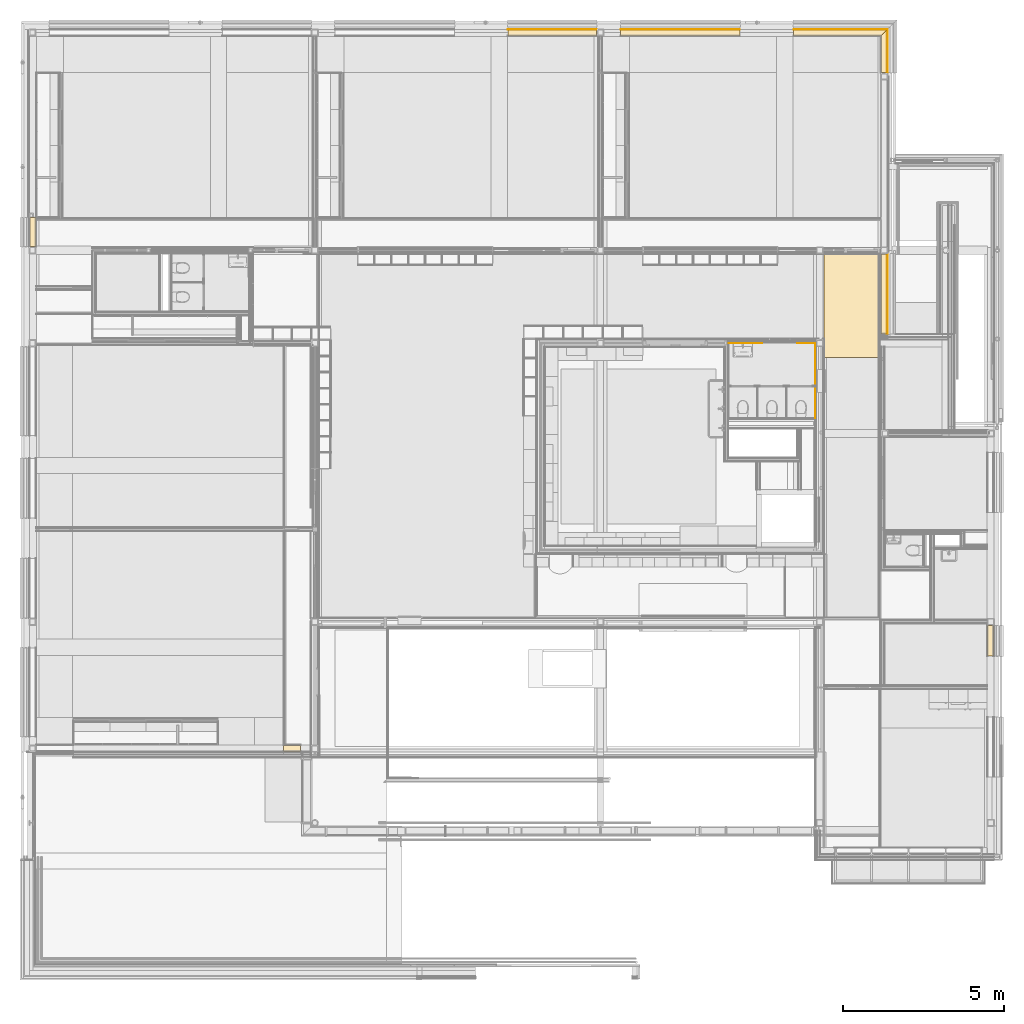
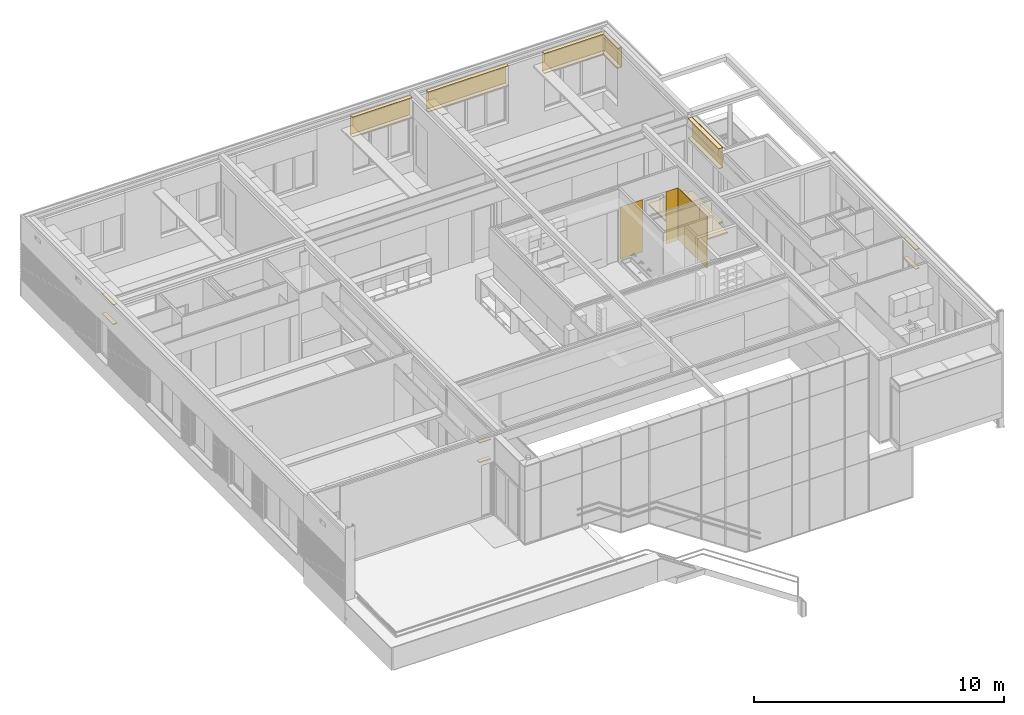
# One storey, part 107 of 137: 25 coverings, 12 elements without a shape of their own.
"""IFC2X3 building model written with IfcOpenShell, lengths in millimetres."""

from ifc_helpers import new_model, entity, si_unit, converted_unit, derived_unit, money_unit, direction, frame, origin_with_axes, place, context, subcontext, project, spatial, faceted_brep, material, type_object, element, aggregate, save


model = new_model("IFC2X3")

# Units and contexts
model_context = context("Model", 3, precision=0.01, world=origin_with_axes(), true_north=direction((0.0, 1.0)))
body_context = subcontext(model_context, "Body", "Model", "MODEL_VIEW")
ifc_project = project(units=[si_unit("LENGTHUNIT", "METRE", prefix="MILLI"), si_unit("AREAUNIT", "SQUARE_METRE"), si_unit("VOLUMEUNIT", "CUBIC_METRE"), converted_unit("PLANEANGLEUNIT", "DEGREE", entity("IfcPlaneAngleMeasure", 0.0174532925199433), si_unit("PLANEANGLEUNIT", "RADIAN"), dimensions=[0, 0, 0, 0, 0, 0, 0]), money_unit("EUR"), converted_unit("TIMEUNIT", "Year", entity("IfcTimeMeasure", 31556926.0), si_unit("TIMEUNIT", "SECOND"), dimensions=[0, 0, 1, 0, 0, 0, 0]), si_unit("MASSUNIT", "GRAM", prefix="KILO"), si_unit("THERMODYNAMICTEMPERATUREUNIT", "DEGREE_CELSIUS"), si_unit("LUMINOUSINTENSITYUNIT", "LUMEN"), si_unit("ENERGYUNIT", "JOULE", prefix="MEGA"), derived_unit("THERMALCONDUCTANCEUNIT", [(si_unit("POWERUNIT", "WATT"), 1), (si_unit("LENGTHUNIT", "METRE"), -1), (si_unit("THERMODYNAMICTEMPERATUREUNIT", "KELVIN"), -1)]), derived_unit("SPECIFICHEATCAPACITYUNIT", [(si_unit("ENERGYUNIT", "JOULE"), 1), (si_unit("MASSUNIT", "GRAM", prefix="KILO"), -1), (si_unit("THERMODYNAMICTEMPERATUREUNIT", "KELVIN"), -1)]), derived_unit("MASSDENSITYUNIT", [(si_unit("MASSUNIT", "GRAM", prefix="KILO"), 1), (si_unit("VOLUMEUNIT", "CUBIC_METRE"), -1)])], contexts=[model_context])

# Site, building, storey
site_placement = place(None, origin_with_axes())
site = spatial("IfcSite", under=ifc_project, at=site_placement, Name="Site", CompositionType="ELEMENT")
building_placement = place(site_placement, origin_with_axes())
building = spatial("IfcBuilding", under=site, at=building_placement, Name="Naam gebouw", CompositionType="ELEMENT")
storey_placement = place(building_placement, frame((0.0, 0.0, 3960.0), z_axis=(0.0, 0.0, 1.0), x_axis=(1.0, 0.0, 0.0)))
storey = spatial("IfcBuildingStorey", under=building, at=storey_placement, Name="1e verdieping", CompositionType="ELEMENT", Elevation=3960.0)

# Slab, covering
slab_type = type_object("IfcSlabType", Name="43 Zwevende dekvloer 100", PredefinedType="NOTDEFINED")
slab_placement = place(storey_placement, frame((24634.99903999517, 19003.49778166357, 0.0), z_axis=(0.0, 0.0, 1.0), x_axis=(1.0, 0.0, 0.0)))
slab = element("IfcSlab", 1, at=slab_placement, inside=storey, type_object=slab_type, Name="_Vloer-x", PredefinedType="NOTDEFINED")
ifc_material_1 = material(Name="Cement - dekvloer")
covering_1_placement = place(slab_placement, origin_with_axes())
covering_1 = element("IfcCovering", 2, at=covering_1_placement, material=ifc_material_1, Name="Cement - dekvloer", PredefinedType="FLOORING", context=body_context, shape_type="Brep", body=[
    faceted_brep([(1751.000935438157, 0.0, -69.99999999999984), (1751.000935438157, 0.0, 0.0), (0.0, 0.0, 0.0), (0.0, 0.0, -69.99999999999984), (1751.000935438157, 732.5026352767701, -69.99999999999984), (1751.000935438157, 732.5026352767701, 0.0), (1965.000982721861, 732.5026352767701, 0.0), (1965.000982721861, 3207.502591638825, 0.0), (1751.000985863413, 3207.502591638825, 0.0), (1751.000985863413, 3383.978432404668, 0.0), (621.0009473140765, 3383.978432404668, 0.0), (621.0009473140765, 3313.978444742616, 0.0), (0.0, 3313.978444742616, 0.0), (0.0, 3313.978444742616, -69.99999999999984), (621.0009473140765, 3313.978444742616, -69.99999999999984), (621.0009473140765, 3383.978432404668, -69.99999999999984), (1751.000985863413, 3383.978432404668, -69.99999999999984), (1751.000985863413, 3207.502591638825, -69.99999999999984), (1965.000982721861, 3207.502591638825, -69.99999999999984), (1965.000982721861, 732.5026352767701, -69.99999999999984)], [[[0, 1, 2, 3]], [[4, 5, 1, 0]], [[2, 1, 5, 6, 7, 8, 9, 10, 11, 12]], [[3, 2, 12, 13]], [[3, 13, 14, 15, 16, 17, 18, 19, 4, 0]], [[19, 6, 5, 4]], [[18, 7, 6, 19]], [[17, 8, 7, 18]], [[16, 9, 8, 17]], [[15, 10, 9, 16]], [[14, 11, 10, 15]], [[13, 12, 11, 14]]]),
])
aggregate(slab, [covering_1])

# Proxy, covering
building_element_proxy_type = type_object("IfcBuildingElementProxyType", Name="42 Tegelwerk 2600+ 12 x 2600", PredefinedType="NOTDEFINED")
proxy_1_placement = place(storey_placement, frame((24344.99903999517, 19439.9998112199, 0.0), z_axis=(0.0, 0.0, 1.0), x_axis=(-1.0, 0.0, 0.0)))
proxy_1 = element("IfcBuildingElementProxy", 3, at=proxy_1_placement, inside=storey, type_object=building_element_proxy_type, Name="_Wand-x")
ifc_material_2 = material(Name="Tegels - Wand")
covering_2_placement = place(proxy_1_placement, origin_with_axes())
covering_2 = element("IfcCovering", 4, at=covering_2_placement, material=ifc_material_2, Name="Tegels - Wand", PredefinedType="NOTDEFINED", context=body_context, shape_type="Brep", body=[
    faceted_brep([(-7.999999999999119, -7.999999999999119, 2600.0), (-7.999999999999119, -12.99999999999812, 2600.0), (545.0078311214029, -12.99999999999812, 2600.0), (545.0078311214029, -7.999999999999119, 2600.0), (-7.999999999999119, -13.00000000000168, 49.99999999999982), (-7.999999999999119, -7.999999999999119, 49.99999999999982), (545.0078311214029, -13.00000000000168, 49.99999999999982), (545.0078311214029, -7.999999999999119, 49.99999999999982)], [[[0, 1, 2, 3]], [[4, 1, 0, 5]], [[1, 4, 6, 2]], [[3, 2, 6, 7]], [[5, 0, 3, 7]], [[4, 5, 7, 6]]]),
])
aggregate(proxy_1, [covering_2])

proxy_2_placement = place(storey_placement, frame((22719.99120887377, 19439.9998112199, 0.0), z_axis=(0.0, 0.0, 1.0), x_axis=(-1.0, 0.0, 0.0)))
proxy_2 = element("IfcBuildingElementProxy", 5, at=proxy_2_placement, inside=storey, type_object=building_element_proxy_type, Name="_Wand-x")
covering_3_placement = place(proxy_2_placement, origin_with_axes())
covering_3 = element("IfcCovering", 6, at=covering_3_placement, material=ifc_material_2, Name="Tegels - Wand", PredefinedType="NOTDEFINED", context=body_context, shape_type="Brep", body=[
    faceted_brep([(1047.992173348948, -13.00000000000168, 49.99999999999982), (1047.992173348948, -13.00000000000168, 2600.0), (0.0, -12.99999999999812, 2600.0), (0.0, -13.00000000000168, 49.99999999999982), (1047.992173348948, -7.999999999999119, 2600.0), (1047.992173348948, -7.999999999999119, 49.99999999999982), (0.0, -7.999999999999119, 2600.0), (0.0, -7.999999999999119, 49.99999999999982)], [[[0, 1, 2, 3]], [[4, 1, 0, 5]], [[1, 4, 6, 2]], [[6, 7, 3, 2]], [[5, 0, 3, 7]], [[4, 5, 7, 6]]]),
])
aggregate(proxy_2, [covering_3])

proxy_3_placement = place(storey_placement, frame((24344.99903999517, 17134.99778166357, 0.0), z_axis=(0.0, 0.0, 1.0), x_axis=(0.0, 1.0, 0.0)))
proxy_3 = element("IfcBuildingElementProxy", 7, at=proxy_3_placement, inside=storey, type_object=building_element_proxy_type, Name="_Wand-x")
covering_4_placement = place(proxy_3_placement, origin_with_axes())
covering_4 = element("IfcCovering", 8, at=covering_4_placement, material=ifc_material_2, Name="Tegels - Wand", PredefinedType="NOTDEFINED", context=body_context, shape_type="Brep", body=[
    faceted_brep([(2318.002034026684, -13.00000000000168, 49.99999999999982), (2318.002034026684, -12.99999999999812, 2600.0), (-7.999999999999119, -12.99999999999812, 2600.0), (-7.999999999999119, -13.00000000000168, 49.99999999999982), (2318.002034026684, -7.999999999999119, 2600.0), (2318.002034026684, -7.999999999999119, 49.99999999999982), (-7.999999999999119, -7.999999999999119, 2600.0), (-7.999999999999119, -7.999999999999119, 49.99999999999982)], [[[0, 1, 2, 3]], [[4, 1, 0, 5]], [[1, 4, 6, 2]], [[3, 2, 6, 7]], [[5, 0, 3, 7]], [[4, 5, 7, 6]]]),
])
aggregate(proxy_3, [covering_4])

# Beam, coverings
beam_type = type_object("IfcBeamType", Name="31 HSB boven kozijnen 214 x 1000", PredefinedType="BEAM")
beam_1_placement = place(storey_placement, frame((14834.99942456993, 28961.0, 2600.000000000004), z_axis=(0.0, 0.0, 1.0), x_axis=(0.0, -1.0, 0.0)))
beam_1 = element("IfcBeam", 9, at=beam_1_placement, inside=storey, type_object=beam_type, Name="28_Balk-x", ObjectType="BEAM")
ifc_material_3 = material(Name="Hout - Vloer")
covering_5_placement = place(beam_1_placement, origin_with_axes())
covering_5 = element("IfcCovering", 10, at=covering_5_placement, material=ifc_material_3, Name="Hout - Vloer", PredefinedType="NOTDEFINED", context=body_context, shape_type="Brep", body=[
    faceted_brep([(-196.000001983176, 2749.999999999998, 999.9999999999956), (-196.000001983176, 2749.999999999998, 961.9999910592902), (-196.000001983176, 0.0, 961.9999910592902), (-196.000001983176, 0.0, 999.9999999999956), (-11.99999006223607, 2749.999999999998, 999.9999999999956), (-11.99999006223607, 2749.999999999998, 962.0000059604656), (-11.99999006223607, 0.0, 962.0000059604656), (-11.99999006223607, 0.0, 999.9999999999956)], [[[0, 1, 2, 3]], [[0, 4, 5, 1]], [[1, 5, 6, 2]], [[3, 2, 6, 7]], [[4, 0, 3, 7]], [[5, 4, 7, 6]]]),
])
covering_6_placement = place(beam_1_placement, origin_with_axes())
covering_6 = element("IfcCovering", 11, at=covering_6_placement, material=ifc_material_3, Name="Hout - Vloer", PredefinedType="NOTDEFINED", context=body_context, shape_type="Brep", body=[
    faceted_brep([(-196.0000083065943, 2749.999999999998, 49.99999999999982), (-196.0000083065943, 2749.999999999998, 12.00000596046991), (-196.0000083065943, 0.0, 12.00000596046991), (-196.0000083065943, 0.0, 49.99999999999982), (-11.9999963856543, 2749.999999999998, 49.99999999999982), (-11.9999963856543, 2749.999999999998, 12.00000596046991), (-11.9999963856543, 0.0, 12.00000596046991), (-11.9999963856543, 0.0, 49.99999999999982)], [[[0, 1, 2, 3]], [[0, 4, 5, 1]], [[1, 5, 6, 2]], [[3, 2, 6, 7]], [[4, 0, 3, 7]], [[5, 4, 7, 6]]]),
])
ifc_material_4 = material(Name="Hout - Multiplex")
covering_7_placement = place(beam_1_placement, origin_with_axes())
covering_7 = element("IfcCovering", 12, at=covering_7_placement, material=ifc_material_4, Name="Hout - Multiplex", PredefinedType="NOTDEFINED", context=body_context, shape_type="Brep", body=[
    faceted_brep([(-214.0000025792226, 2749.999999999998, 999.9999999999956), (-214.0000025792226, 2749.999999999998, 11.99999999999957), (-214.0000025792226, 0.0, 11.99999999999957), (-214.0000025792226, 0.0, 999.9999999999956), (-196.000001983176, 2749.999999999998, 999.9999999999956), (-196.000001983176, 2749.999999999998, 11.99999999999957), (-196.000001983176, 0.0, 11.99999999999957), (-196.000001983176, 0.0, 999.9999999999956)], [[[0, 1, 2, 3]], [[0, 4, 5, 1]], [[1, 5, 6, 2]], [[3, 2, 6, 7]], [[4, 0, 3, 7]], [[5, 4, 7, 6]]]),
])
aggregate(beam_1, [covering_5, covering_6, covering_7])

beam_2_placement = place(storey_placement, frame((18324.99942456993, 28961.0, 2600.000000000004), z_axis=(0.0, 0.0, 1.0), x_axis=(0.0, -1.0, 0.0)))
beam_2 = element("IfcBeam", 13, at=beam_2_placement, inside=storey, type_object=beam_type, Name="28_Balk-x", ObjectType="BEAM")
covering_8_placement = place(beam_2_placement, origin_with_axes())
covering_8 = element("IfcCovering", 14, at=covering_8_placement, material=ifc_material_3, Name="Hout - Vloer", PredefinedType="NOTDEFINED", context=body_context, shape_type="Brep", body=[
    faceted_brep([(-196.000001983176, 3700.000000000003, 999.9999999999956), (-196.000001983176, 3700.000000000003, 961.9999910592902), (-196.000001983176, 0.0, 961.9999910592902), (-196.000001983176, 0.0, 999.9999999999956), (-11.99999006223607, 3700.000000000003, 999.9999999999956), (-11.99999006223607, 3700.000000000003, 962.0000059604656), (-11.99999006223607, 0.0, 962.0000059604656), (-11.99999006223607, 0.0, 999.9999999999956)], [[[0, 1, 2, 3]], [[0, 4, 5, 1]], [[1, 5, 6, 2]], [[3, 2, 6, 7]], [[4, 0, 3, 7]], [[5, 4, 7, 6]]]),
])
covering_9_placement = place(beam_2_placement, origin_with_axes())
covering_9 = element("IfcCovering", 15, at=covering_9_placement, material=ifc_material_3, Name="Hout - Vloer", PredefinedType="NOTDEFINED", context=body_context, shape_type="Brep", body=[
    faceted_brep([(-196.0000083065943, 3700.000000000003, 49.99999999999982), (-196.0000083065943, 3700.000000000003, 12.00000596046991), (-196.0000083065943, 0.0, 12.00000596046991), (-196.0000083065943, 0.0, 49.99999999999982), (-11.9999963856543, 3700.000000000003, 49.99999999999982), (-11.9999963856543, 3700.000000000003, 12.00000596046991), (-11.9999963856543, 0.0, 12.00000596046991), (-11.9999963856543, 0.0, 49.99999999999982)], [[[0, 1, 2, 3]], [[0, 4, 5, 1]], [[1, 5, 6, 2]], [[3, 2, 6, 7]], [[4, 0, 3, 7]], [[5, 4, 7, 6]]]),
])
covering_10_placement = place(beam_2_placement, origin_with_axes())
covering_10 = element("IfcCovering", 16, at=covering_10_placement, material=ifc_material_4, Name="Hout - Multiplex", PredefinedType="NOTDEFINED", context=body_context, shape_type="Brep", body=[
    faceted_brep([(-214.0000025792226, 3700.000000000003, 999.9999999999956), (-214.0000025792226, 3700.000000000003, 11.99999999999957), (-214.0000025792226, 0.0, 11.99999999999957), (-214.0000025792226, 0.0, 999.9999999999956), (-196.000001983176, 3700.000000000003, 999.9999999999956), (-196.000001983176, 3700.000000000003, 11.99999999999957), (-196.000001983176, 0.0, 11.99999999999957), (-196.000001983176, 0.0, 999.9999999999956)], [[[0, 1, 2, 3]], [[0, 4, 5, 1]], [[1, 5, 6, 2]], [[3, 2, 6, 7]], [[4, 0, 3, 7]], [[5, 4, 7, 6]]]),
])
aggregate(beam_2, [covering_8, covering_9, covering_10])

beam_3_placement = place(storey_placement, frame((23684.99942456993, 28961.0, 2600.000000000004), z_axis=(0.0, 0.0, 1.0), x_axis=(0.0, -1.0, 0.0)))
beam_3 = element("IfcBeam", 17, at=beam_3_placement, inside=storey, type_object=beam_type, Name="28_Balk-x", ObjectType="BEAM")
covering_11_placement = place(beam_3_placement, origin_with_axes())
covering_11 = element("IfcCovering", 18, at=covering_11_placement, material=ifc_material_3, Name="Hout - Vloer", PredefinedType="NOTDEFINED", context=body_context, shape_type="Brep", body=[
    faceted_brep([(-196.000001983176, 2897.000577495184, 999.9999999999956), (-196.000001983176, 2897.000577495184, 961.9999910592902), (-196.000001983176, 0.0, 961.9999910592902), (-196.000001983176, 0.0, 999.9999999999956), (-11.99999006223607, 2713.000565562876, 999.9999999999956), (-11.99999006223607, 2713.000565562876, 962.0000059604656), (-11.99999006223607, 0.0, 962.0000059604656), (-11.99999006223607, 0.0, 999.9999999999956)], [[[0, 1, 2, 3]], [[0, 4, 5, 1]], [[1, 5, 6, 2]], [[3, 2, 6, 7]], [[4, 0, 3, 7]], [[5, 4, 7, 6]]]),
])
covering_12_placement = place(beam_3_placement, origin_with_axes())
covering_12 = element("IfcCovering", 19, at=covering_12_placement, material=ifc_material_3, Name="Hout - Vloer", PredefinedType="NOTDEFINED", context=body_context, shape_type="Brep", body=[
    faceted_brep([(-196.0000083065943, 2897.000583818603, 49.99999999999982), (-196.0000083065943, 2897.000583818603, 12.00000596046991), (-196.0000083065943, 0.0, 12.00000596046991), (-196.0000083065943, 0.0, 49.99999999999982), (-11.9999963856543, 2713.000571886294, 49.99999999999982), (-11.9999963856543, 2713.000571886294, 12.00000596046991), (-11.9999963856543, 0.0, 12.00000596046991), (-11.9999963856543, 0.0, 49.99999999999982)], [[[0, 1, 2, 3]], [[0, 4, 5, 1]], [[1, 5, 6, 2]], [[3, 2, 6, 7]], [[4, 0, 3, 7]], [[5, 4, 7, 6]]]),
])
covering_13_placement = place(beam_3_placement, origin_with_axes())
covering_13 = element("IfcCovering", 20, at=covering_13_placement, material=ifc_material_4, Name="Hout - Multiplex", PredefinedType="NOTDEFINED", context=body_context, shape_type="Brep", body=[
    faceted_brep([(-214.0000025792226, 2915.000578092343, 999.9999999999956), (-214.0000025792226, 2915.000578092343, 11.99999999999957), (-214.0000025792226, 0.0, 11.99999999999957), (-214.0000025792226, 0.0, 999.9999999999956), (-196.000001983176, 2897.000577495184, 999.9999999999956), (-196.000001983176, 2897.000577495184, 11.99999999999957), (-196.000001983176, 0.0, 11.99999999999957), (-196.000001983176, 0.0, 999.9999999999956)], [[[0, 1, 2, 3]], [[0, 4, 5, 1]], [[1, 5, 6, 2]], [[3, 2, 6, 7]], [[4, 0, 3, 7]], [[5, 4, 7, 6]]]),
])
aggregate(beam_3, [covering_11, covering_12, covering_13])

beam_4_placement = place(storey_placement, frame((26386.00000006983, 28961.0, 2600.000000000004), z_axis=(0.0, 0.0, 1.0), x_axis=(-1.0, 0.0, 0.0)))
beam_4 = element("IfcBeam", 21, at=beam_4_placement, inside=storey, type_object=beam_type, Name="28_Balk-x", ObjectType="BEAM")
covering_14_placement = place(beam_4_placement, origin_with_axes())
covering_14 = element("IfcCovering", 22, at=covering_14_placement, material=ifc_material_3, Name="Hout - Vloer", PredefinedType="NOTDEFINED", context=body_context, shape_type="Brep", body=[
    faceted_brep([(-196.0000083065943, 1130.000000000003, 49.99999999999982), (-196.0000083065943, 1130.000000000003, 12.00000596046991), (-196.0000083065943, -196.0000083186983, 12.00000596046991), (-196.0000083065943, -196.0000083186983, 49.99999999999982), (-11.9999963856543, 1130.000000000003, 49.99999999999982), (-11.9999963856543, 1130.000000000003, 12.00000596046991), (-11.99999638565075, -11.99999638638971, 12.00000596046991), (-11.99999638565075, -11.99999638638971, 49.99999999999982)], [[[0, 1, 2, 3]], [[0, 4, 5, 1]], [[1, 5, 6, 2]], [[3, 2, 6, 7]], [[4, 0, 3, 7]], [[5, 4, 7, 6]]]),
])
covering_15_placement = place(beam_4_placement, origin_with_axes())
covering_15 = element("IfcCovering", 23, at=covering_15_placement, material=ifc_material_3, Name="Hout - Vloer", PredefinedType="NOTDEFINED", context=body_context, shape_type="Brep", body=[
    faceted_brep([(-196.000001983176, 1130.000000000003, 999.9999999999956), (-196.000001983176, 1130.000000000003, 961.9999910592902), (-196.000001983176, -196.0000019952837, 961.9999910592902), (-196.000001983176, -196.0000019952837, 999.9999999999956), (-11.99999006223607, 1130.000000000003, 999.9999999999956), (-11.99999006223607, 1130.000000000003, 962.0000059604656), (-11.99999006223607, -11.99999006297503, 962.0000059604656), (-11.99999006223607, -11.99999006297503, 999.9999999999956)], [[[0, 1, 2, 3]], [[0, 4, 5, 1]], [[1, 5, 6, 2]], [[3, 2, 6, 7]], [[4, 0, 3, 7]], [[5, 4, 7, 6]]]),
])
covering_16_placement = place(beam_4_placement, origin_with_axes())
covering_16 = element("IfcCovering", 24, at=covering_16_placement, material=ifc_material_4, Name="Hout - Multiplex", PredefinedType="NOTDEFINED", context=body_context, shape_type="Brep", body=[
    faceted_brep([(-214.0000025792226, 1130.000000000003, 999.9999999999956), (-214.0000025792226, 1130.000000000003, 11.99999999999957), (-214.0000025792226, -214.0000025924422, 11.99999999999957), (-214.0000025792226, -214.0000025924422, 999.9999999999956), (-196.000001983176, 1130.000000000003, 999.9999999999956), (-196.000001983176, 1130.000000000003, 11.99999999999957), (-196.000001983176, -196.0000019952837, 11.99999999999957), (-196.000001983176, -196.0000019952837, 999.9999999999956)], [[[0, 1, 2, 3]], [[0, 4, 5, 1]], [[1, 5, 6, 2]], [[3, 2, 6, 7]], [[4, 0, 3, 7]], [[5, 4, 7, 6]]]),
])
aggregate(beam_4, [covering_14, covering_15, covering_16])

beam_5_placement = place(storey_placement, frame((26386.00000214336, 22211.000393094, 2600.000000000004), z_axis=(0.0, 0.0, 1.0), x_axis=(-1.0, 0.0, 0.0)))
beam_5 = element("IfcBeam", 25, at=beam_5_placement, inside=storey, type_object=beam_type, Name="28_Balk-x", ObjectType="BEAM")
covering_17_placement = place(beam_5_placement, origin_with_axes())
covering_17 = element("IfcCovering", 26, at=covering_17_placement, material=ifc_material_3, Name="Hout - Vloer", PredefinedType="NOTDEFINED", context=body_context, shape_type="Brep", body=[
    faceted_brep([(-196.000001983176, 2475.000000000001, 999.9999999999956), (-196.000001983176, 2475.000000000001, 961.9999910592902), (-196.000001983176, 0.0, 961.9999910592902), (-196.000001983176, 0.0, 999.9999999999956), (-11.99999006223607, 2475.000000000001, 999.9999999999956), (-11.99999006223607, 2475.000000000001, 962.0000059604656), (-11.99999006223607, 0.0, 962.0000059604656), (-11.99999006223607, 0.0, 999.9999999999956)], [[[0, 1, 2, 3]], [[0, 4, 5, 1]], [[1, 5, 6, 2]], [[3, 2, 6, 7]], [[4, 0, 3, 7]], [[5, 4, 7, 6]]]),
])
covering_18_placement = place(beam_5_placement, origin_with_axes())
covering_18 = element("IfcCovering", 27, at=covering_18_placement, material=ifc_material_3, Name="Hout - Vloer", PredefinedType="NOTDEFINED", context=body_context, shape_type="Brep", body=[
    faceted_brep([(-196.0000083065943, 2475.000000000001, 49.99999999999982), (-196.0000083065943, 2475.000000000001, 12.00000596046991), (-196.0000083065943, 0.0, 12.00000596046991), (-196.0000083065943, 0.0, 49.99999999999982), (-11.9999963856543, 2475.000000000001, 49.99999999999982), (-11.9999963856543, 2475.000000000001, 12.00000596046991), (-11.9999963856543, 0.0, 12.00000596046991), (-11.9999963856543, 0.0, 49.99999999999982)], [[[0, 1, 2, 3]], [[0, 4, 5, 1]], [[1, 5, 6, 2]], [[3, 2, 6, 7]], [[4, 0, 3, 7]], [[5, 4, 7, 6]]]),
])
covering_19_placement = place(beam_5_placement, origin_with_axes())
covering_19 = element("IfcCovering", 28, at=covering_19_placement, material=ifc_material_4, Name="Hout - Multiplex", PredefinedType="NOTDEFINED", context=body_context, shape_type="Brep", body=[
    faceted_brep([(-214.0000025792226, 2475.000000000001, 999.9999999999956), (-214.0000025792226, 2475.000000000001, 11.99999999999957), (-214.0000025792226, 0.0, 11.99999999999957), (-214.0000025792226, 0.0, 999.9999999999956), (-196.000001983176, 2475.000000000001, 999.9999999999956), (-196.000001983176, 2475.000000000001, 11.99999999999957), (-196.000001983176, 0.0, 11.99999999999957), (-196.000001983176, 0.0, 999.9999999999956)], [[[0, 1, 2, 3]], [[0, 4, 5, 1]], [[1, 5, 6, 2]], [[3, 2, 6, 7]], [[4, 0, 3, 7]], [[5, 4, 7, 6]]]),
])
aggregate(beam_5, [covering_17, covering_18, covering_19])

beam_6_placement = place(storey_placement, frame((29685.99999999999, 10695.00011055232, 2600.000000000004), z_axis=(0.0, 0.0, 1.0), x_axis=(-1.0, 0.0, 0.0)))
beam_6 = element("IfcBeam", 29, at=beam_6_placement, inside=storey, type_object=beam_type, Name="28_Balk-x", ObjectType="BEAM")
covering_20_placement = place(beam_6_placement, origin_with_axes())
covering_20 = element("IfcCovering", 30, at=covering_20_placement, material=ifc_material_3, Name="Hout - Vloer", PredefinedType="NOTDEFINED", context=body_context, shape_type="Brep", body=[
    faceted_brep([(-196.000001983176, 950.000000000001, 999.9999999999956), (-196.000001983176, 950.000000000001, 961.9999910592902), (-196.000001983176, 0.0, 961.9999910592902), (-196.000001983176, 0.0, 999.9999999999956), (-11.99999006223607, 950.000000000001, 999.9999999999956), (-11.99999006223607, 950.000000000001, 962.0000059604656), (-11.99999006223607, 0.0, 962.0000059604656), (-11.99999006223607, 0.0, 999.9999999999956)], [[[0, 1, 2, 3]], [[0, 4, 5, 1]], [[1, 5, 6, 2]], [[3, 2, 6, 7]], [[4, 0, 3, 7]], [[5, 4, 7, 6]]]),
])
covering_21_placement = place(beam_6_placement, origin_with_axes())
covering_21 = element("IfcCovering", 31, at=covering_21_placement, material=ifc_material_3, Name="Hout - Vloer", PredefinedType="NOTDEFINED", context=body_context, shape_type="Brep", body=[
    faceted_brep([(-196.0000083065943, 950.000000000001, 49.99999999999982), (-196.0000083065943, 950.000000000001, 12.00000596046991), (-196.0000083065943, 0.0, 12.00000596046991), (-196.0000083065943, 0.0, 49.99999999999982), (-11.9999963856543, 950.000000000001, 49.99999999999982), (-11.9999963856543, 950.000000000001, 12.00000596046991), (-11.9999963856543, 0.0, 12.00000596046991), (-11.9999963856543, 0.0, 49.99999999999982)], [[[0, 1, 2, 3]], [[0, 4, 5, 1]], [[1, 5, 6, 2]], [[3, 2, 6, 7]], [[4, 0, 3, 7]], [[5, 4, 7, 6]]]),
])
aggregate(beam_6, [covering_20, covering_21])

beam_7_placement = place(storey_placement, frame((8410.0, 6993.999661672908, 2600.000000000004), z_axis=(0.0, 0.0, 1.0), x_axis=(4.022914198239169e-08, 0.9999999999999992, 0.0)))
beam_7 = element("IfcBeam", 32, at=beam_7_placement, inside=storey, type_object=beam_type, Name="28_Balk-x", ObjectType="BEAM")
covering_22_placement = place(beam_7_placement, origin_with_axes())
covering_22 = element("IfcCovering", 33, at=covering_22_placement, material=ifc_material_3, Name="Hout - Vloer", PredefinedType="NOTDEFINED", context=body_context, shape_type="Brep", body=[
    faceted_brep([(-196.000001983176, 532.4999958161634, 999.9999999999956), (-196.000001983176, 532.4999958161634, 961.9999910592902), (-196.0000019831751, 0.0, 961.9999910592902), (-196.0000019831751, 0.0, 999.9999999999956), (-11.99999006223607, 532.4999958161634, 999.9999999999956), (-11.99999006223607, 532.4999958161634, 962.0000059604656), (-11.99999006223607, 0.0, 962.0000059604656), (-11.99999006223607, 0.0, 999.9999999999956)], [[[0, 1, 2, 3]], [[0, 4, 5, 1]], [[1, 5, 6, 2]], [[3, 2, 6, 7]], [[4, 0, 3, 7]], [[5, 4, 7, 6]]]),
])
covering_23_placement = place(beam_7_placement, origin_with_axes())
covering_23 = element("IfcCovering", 34, at=covering_23_placement, material=ifc_material_3, Name="Hout - Vloer", PredefinedType="NOTDEFINED", context=body_context, shape_type="Brep", body=[
    faceted_brep([(-196.0000083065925, 532.4999958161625, 49.99999999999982), (-196.0000083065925, 532.4999958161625, 12.00000596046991), (-196.0000083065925, 0.0, 12.00000596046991), (-196.0000083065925, 0.0, 49.99999999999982), (-11.99999638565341, 532.4999958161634, 49.99999999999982), (-11.99999638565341, 532.4999958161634, 12.00000596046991), (-11.99999638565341, 0.0, 12.00000596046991), (-11.99999638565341, 0.0, 49.99999999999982)], [[[0, 1, 2, 3]], [[0, 4, 5, 1]], [[1, 5, 6, 2]], [[3, 2, 6, 7]], [[4, 0, 3, 7]], [[5, 4, 7, 6]]]),
])
aggregate(beam_7, [covering_22, covering_23])

beam_8_placement = place(storey_placement, frame((214.0000000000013, 22439.99984707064, 2600.000000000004), z_axis=(0.0, 0.0, 1.0), x_axis=(1.0, 0.0, 0.0)))
beam_8 = element("IfcBeam", 35, at=beam_8_placement, inside=storey, type_object=beam_type, Name="28_Balk-x", ObjectType="BEAM")
covering_24_placement = place(beam_8_placement, origin_with_axes())
covering_24 = element("IfcCovering", 36, at=covering_24_placement, material=ifc_material_3, Name="Hout - Vloer", PredefinedType="NOTDEFINED", context=body_context, shape_type="Brep", body=[
    faceted_brep([(-196.0000019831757, 899.9999999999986, 999.9999999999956), (-196.0000019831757, 899.9999999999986, 961.9999910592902), (-196.0000019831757, 0.0, 961.9999910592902), (-196.0000019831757, 0.0, 999.9999999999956), (-11.99999006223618, 899.9999999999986, 999.9999999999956), (-11.99999006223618, 899.9999999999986, 962.0000059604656), (-11.99999006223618, 0.0, 962.0000059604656), (-11.99999006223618, 0.0, 999.9999999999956)], [[[0, 1, 2, 3]], [[0, 4, 5, 1]], [[1, 5, 6, 2]], [[3, 2, 6, 7]], [[4, 0, 3, 7]], [[5, 4, 7, 6]]]),
])
covering_25_placement = place(beam_8_placement, origin_with_axes())
covering_25 = element("IfcCovering", 37, at=covering_25_placement, material=ifc_material_3, Name="Hout - Vloer", PredefinedType="NOTDEFINED", context=body_context, shape_type="Brep", body=[
    faceted_brep([(-196.0000083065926, 899.9999999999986, 49.99999999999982), (-196.0000083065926, 899.9999999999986, 12.00000596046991), (-196.0000083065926, 0.0, 12.00000596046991), (-196.0000083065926, 0.0, 49.99999999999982), (-11.99999638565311, 899.9999999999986, 49.99999999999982), (-11.99999638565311, 899.9999999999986, 12.00000596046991), (-11.99999638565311, 0.0, 12.00000596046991), (-11.99999638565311, 0.0, 49.99999999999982)], [[[0, 1, 2, 3]], [[0, 4, 5, 1]], [[1, 5, 6, 2]], [[3, 2, 6, 7]], [[4, 0, 3, 7]], [[5, 4, 7, 6]]]),
])
aggregate(beam_8, [covering_24, covering_25])

save(model, "model.ifc")
